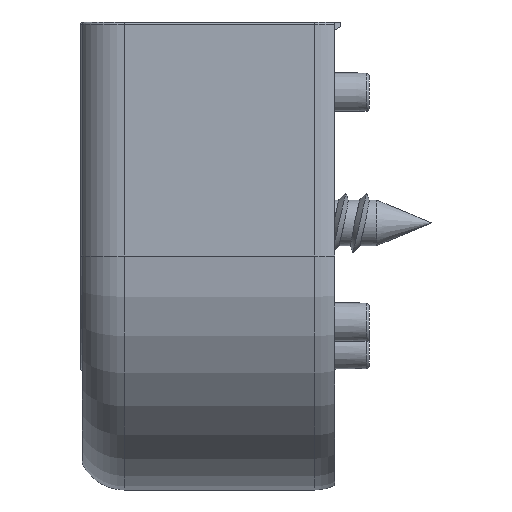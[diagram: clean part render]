
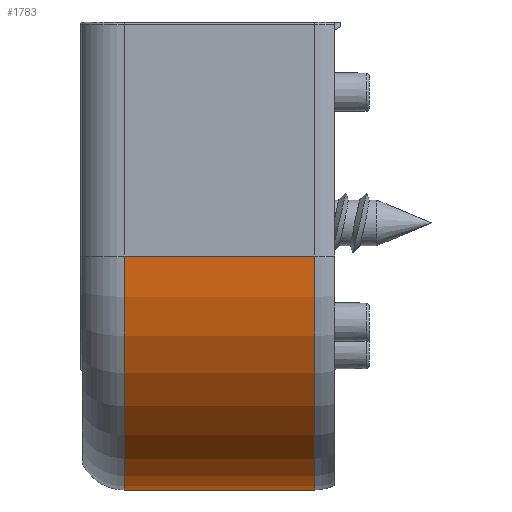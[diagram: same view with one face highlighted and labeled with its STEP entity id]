
A CAD part, left-side view. The second image highlights one B-rep face of the part: STEP entity #1783.
In plain terms, the highlighted cylindrical face has radius 15 mm (diameter 30 mm), a partial arc.
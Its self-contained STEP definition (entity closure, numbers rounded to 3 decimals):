
#401 = DIRECTION ( 'NONE',  ( 0., 0., -1. ) ) ;
#1114 = EDGE_LOOP ( 'NONE', ( #9055, #2377, #8475, #3124 ) ) ;
#1424 = CARTESIAN_POINT ( 'NONE',  ( -2.5, 10.94, -21.63 ) ) ;
#1494 = CARTESIAN_POINT ( 'NONE',  ( -2.5, -2.94, -36.63 ) ) ;
#1783 = ADVANCED_FACE ( 'NONE', ( #3505 ), #8860, .T. ) ;
#1804 = AXIS2_PLACEMENT_3D ( 'NONE', #3262, #11242, #5959 ) ;
#2316 = CARTESIAN_POINT ( 'NONE',  ( -2.5, -1.25, -21.63 ) ) ;
#2334 = CARTESIAN_POINT ( 'NONE',  ( -17.5, -2.94, -21.63 ) ) ;
#2377 = ORIENTED_EDGE ( 'NONE', *, *, #9828, .F. ) ;
#2470 = VECTOR ( 'NONE', #8524, 1000. ) ;
#2939 = AXIS2_PLACEMENT_3D ( 'NONE', #2316, #10269, #401 ) ;
#3124 = ORIENTED_EDGE ( 'NONE', *, *, #10159, .T. ) ;
#3229 = EDGE_CURVE ( 'NONE', #4501, #9119, #6653, .T. ) ;
#3262 = CARTESIAN_POINT ( 'NONE',  ( -2.5, 0.7, -21.63 ) ) ;
#3505 = FACE_OUTER_BOUND ( 'NONE', #1114, .T. ) ;
#3732 = CARTESIAN_POINT ( 'NONE',  ( -2.5, -1.25, -36.63 ) ) ;
#3963 = VERTEX_POINT ( 'NONE', #5042 ) ;
#4501 = VERTEX_POINT ( 'NONE', #3732 ) ;
#4852 = DIRECTION ( 'NONE',  ( 0., 0., -1. ) ) ;
#5042 = CARTESIAN_POINT ( 'NONE',  ( -2.5, 10.94, -36.63 ) ) ;
#5230 = CIRCLE ( 'NONE', #10870, 15. ) ;
#5501 = LINE ( 'NONE', #1494, #2470 ) ;
#5853 = DIRECTION ( 'NONE',  ( 0., 1., 0. ) ) ;
#5959 = DIRECTION ( 'NONE',  ( 0., 0., 1. ) ) ;
#6591 = VECTOR ( 'NONE', #5853, 1000. ) ;
#6653 = CIRCLE ( 'NONE', #2939, 15. ) ;
#7422 = VERTEX_POINT ( 'NONE', #10995 ) ;
#8475 = ORIENTED_EDGE ( 'NONE', *, *, #3229, .T. ) ;
#8524 = DIRECTION ( 'NONE',  ( 0., 1., 0. ) ) ;
#8860 = CYLINDRICAL_SURFACE ( 'NONE', #1804, 15. ) ;
#9055 = ORIENTED_EDGE ( 'NONE', *, *, #9788, .F. ) ;
#9119 = VERTEX_POINT ( 'NONE', #9136 ) ;
#9136 = CARTESIAN_POINT ( 'NONE',  ( -17.5, -1.25, -21.63 ) ) ;
#9366 = LINE ( 'NONE', #2334, #6591 ) ;
#9788 = EDGE_CURVE ( 'NONE', #3963, #7422, #5230, .T. ) ;
#9828 = EDGE_CURVE ( 'NONE', #4501, #3963, #5501, .T. ) ;
#10159 = EDGE_CURVE ( 'NONE', #9119, #7422, #9366, .T. ) ;
#10260 = DIRECTION ( 'NONE',  ( 0., 1., 0. ) ) ;
#10269 = DIRECTION ( 'NONE',  ( 0., 1., 0. ) ) ;
#10870 = AXIS2_PLACEMENT_3D ( 'NONE', #1424, #10260, #4852 ) ;
#10995 = CARTESIAN_POINT ( 'NONE',  ( -17.5, 10.94, -21.63 ) ) ;
#11242 = DIRECTION ( 'NONE',  ( 0., 1., 0. ) ) ;
